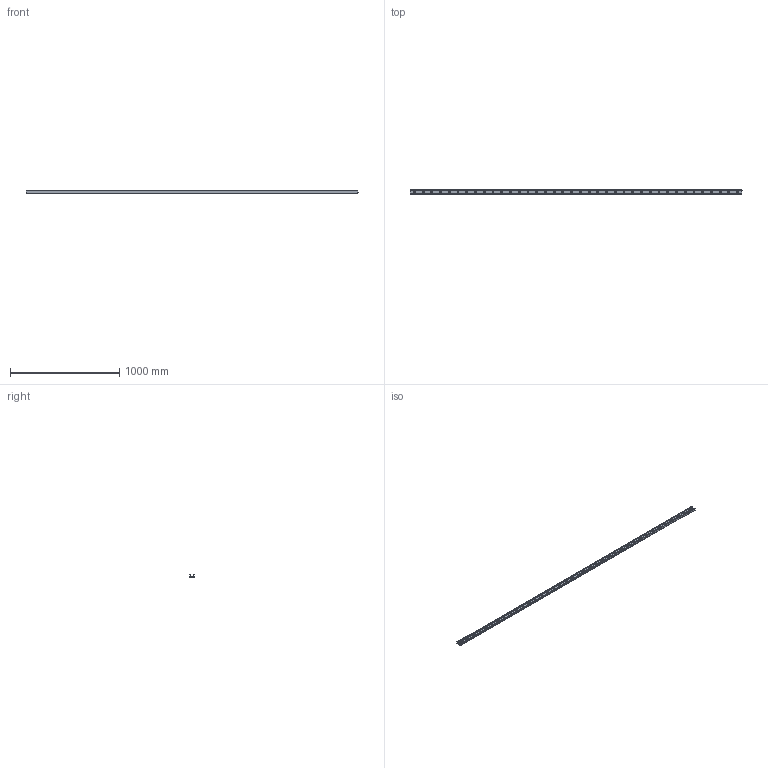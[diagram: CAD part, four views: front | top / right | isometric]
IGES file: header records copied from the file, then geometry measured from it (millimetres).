
Start section: SolidWorks IGES file using analytic representation for surfaces
Global section: file name: C:\Users\IanO\Desktop\43\L1943.ULV43_v2_20180121_IGES\L1943.ULV43-3040.igs; native system: SolidWorks 2017; preprocessor: SolidWorks 2017; author: IanO; date: 190121.090449; units: millimetre
Bounding box: 3040 x 43 x 21 mm (x, y, z)
Surface area: 471664.9 mm2 (no closed solid volume)
Topology: 0 solids, 0 shells, 178 faces, 3334 edges, 3334 vertices
Faces by surface type: revolution 165, bspline 13
